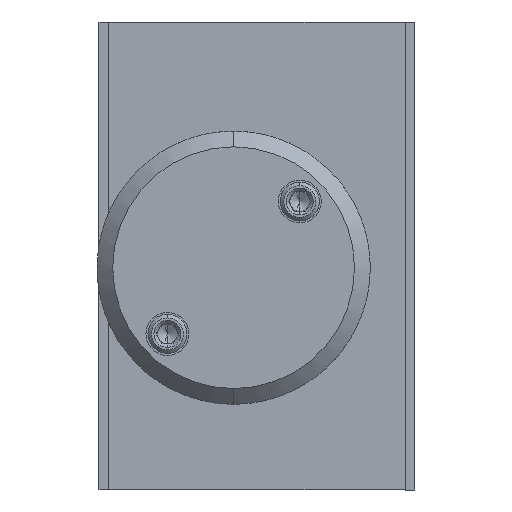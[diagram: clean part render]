
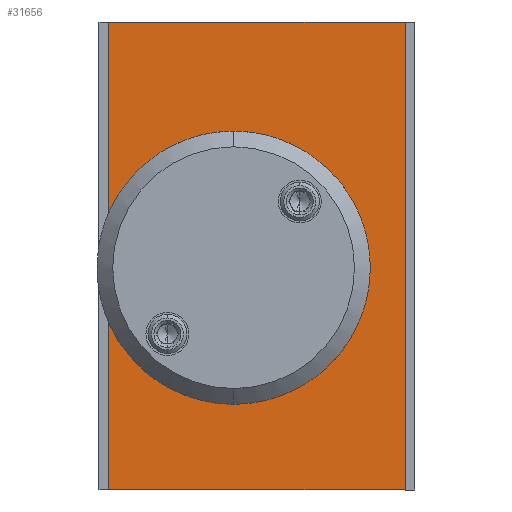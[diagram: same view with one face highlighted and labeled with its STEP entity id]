
A CAD part, left-side view. The second image highlights one B-rep face of the part: STEP entity #31656.
In plain terms, the highlighted planar face has unit normal (-1, 0, 0).
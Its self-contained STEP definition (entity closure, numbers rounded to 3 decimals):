
#1776 = LINE ( 'NONE', #34765, #2104 ) ;
#2104 = VECTOR ( 'NONE', #44505, 1000. ) ;
#2204 = EDGE_LOOP ( 'NONE', ( #53416, #10299, #25101, #52986 ) ) ;
#4803 = CARTESIAN_POINT ( 'NONE',  ( 0., -19., -30. ) ) ;
#5546 = FACE_OUTER_BOUND ( 'NONE', #2204, .T. ) ;
#5588 = FACE_BOUND ( 'NONE', #58447, .T. ) ;
#5623 = CARTESIAN_POINT ( 'NONE',  ( 0., 2.99, -1.5 ) ) ;
#5788 = AXIS2_PLACEMENT_3D ( 'NONE', #5623, #38071, #10193 ) ;
#9260 = CIRCLE ( 'NONE', #46700, 16. ) ;
#10193 = DIRECTION ( 'NONE',  ( 0., 0., -1. ) ) ;
#10299 = ORIENTED_EDGE ( 'NONE', *, *, #35376, .T. ) ;
#10965 = EDGE_CURVE ( 'NONE', #18701, #47528, #13734, .T. ) ;
#13683 = VECTOR ( 'NONE', #26246, 1000. ) ;
#13734 = LINE ( 'NONE', #21532, #13683 ) ;
#14769 = CARTESIAN_POINT ( 'NONE',  ( 0., -19., -30. ) ) ;
#18105 = CARTESIAN_POINT ( 'NONE',  ( 0., 19., 30. ) ) ;
#18356 = CARTESIAN_POINT ( 'NONE',  ( 0., 2.99, -1.5 ) ) ;
#18701 = VERTEX_POINT ( 'NONE', #50742 ) ;
#19128 = VECTOR ( 'NONE', #56370, 1000. ) ;
#19189 = LINE ( 'NONE', #18105, #19128 ) ;
#19464 = DIRECTION ( 'NONE',  ( 0., 0., 1. ) ) ;
#20557 = CIRCLE ( 'NONE', #5788, 16. ) ;
#21532 = CARTESIAN_POINT ( 'NONE',  ( 0., 19., 30. ) ) ;
#23069 = DIRECTION ( 'NONE',  ( 0., 0., -1. ) ) ;
#25101 = ORIENTED_EDGE ( 'NONE', *, *, #10965, .T. ) ;
#25553 = VERTEX_POINT ( 'NONE', #4803 ) ;
#26246 = DIRECTION ( 'NONE',  ( 0., 1., 0. ) ) ;
#28710 = PLANE ( 'NONE',  #38725 ) ;
#30632 = VECTOR ( 'NONE', #47135, 1000. ) ;
#30736 = LINE ( 'NONE', #42302, #30632 ) ;
#31656 = ADVANCED_FACE ( 'NONE', ( #5588, #5546 ), #28710, .F. ) ;
#31786 = VERTEX_POINT ( 'NONE', #55018 ) ;
#34765 = CARTESIAN_POINT ( 'NONE',  ( 0., -19., 30. ) ) ;
#35021 = EDGE_CURVE ( 'NONE', #47528, #31786, #19189, .T. ) ;
#35376 = EDGE_CURVE ( 'NONE', #25553, #18701, #1776, .T. ) ;
#35844 = EDGE_CURVE ( 'NONE', #31786, #25553, #30736, .T. ) ;
#36006 = EDGE_CURVE ( 'NONE', #47213, #48903, #20557, .T. ) ;
#38071 = DIRECTION ( 'NONE',  ( -1., 0., 0. ) ) ;
#38306 = CARTESIAN_POINT ( 'NONE',  ( 0., 2.99, -17.5 ) ) ;
#38645 = EDGE_CURVE ( 'NONE', #48903, #47213, #9260, .T. ) ;
#38725 = AXIS2_PLACEMENT_3D ( 'NONE', #14769, #47670, #19464 ) ;
#40235 = CARTESIAN_POINT ( 'NONE',  ( 0., 19., 30. ) ) ;
#42302 = CARTESIAN_POINT ( 'NONE',  ( 0., 19., -30. ) ) ;
#44505 = DIRECTION ( 'NONE',  ( 0., 0., 1. ) ) ;
#46700 = AXIS2_PLACEMENT_3D ( 'NONE', #18356, #51288, #23069 ) ;
#47135 = DIRECTION ( 'NONE',  ( 0., -1., 0. ) ) ;
#47213 = VERTEX_POINT ( 'NONE', #38306 ) ;
#47528 = VERTEX_POINT ( 'NONE', #40235 ) ;
#47670 = DIRECTION ( 'NONE',  ( 1., 0., 0. ) ) ;
#48903 = VERTEX_POINT ( 'NONE', #58482 ) ;
#50742 = CARTESIAN_POINT ( 'NONE',  ( 0., -19., 30. ) ) ;
#51288 = DIRECTION ( 'NONE',  ( -1., 0., 0. ) ) ;
#52986 = ORIENTED_EDGE ( 'NONE', *, *, #35021, .T. ) ;
#53416 = ORIENTED_EDGE ( 'NONE', *, *, #35844, .T. ) ;
#53470 = ORIENTED_EDGE ( 'NONE', *, *, #38645, .F. ) ;
#53706 = ORIENTED_EDGE ( 'NONE', *, *, #36006, .F. ) ;
#55018 = CARTESIAN_POINT ( 'NONE',  ( 0., 19., -30. ) ) ;
#56370 = DIRECTION ( 'NONE',  ( 0., 0., -1. ) ) ;
#58447 = EDGE_LOOP ( 'NONE', ( #53706, #53470 ) ) ;
#58482 = CARTESIAN_POINT ( 'NONE',  ( 0., 2.99, 14.5 ) ) ;
